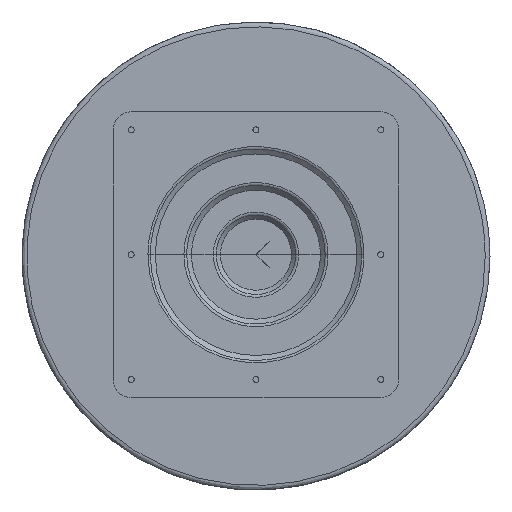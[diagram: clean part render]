
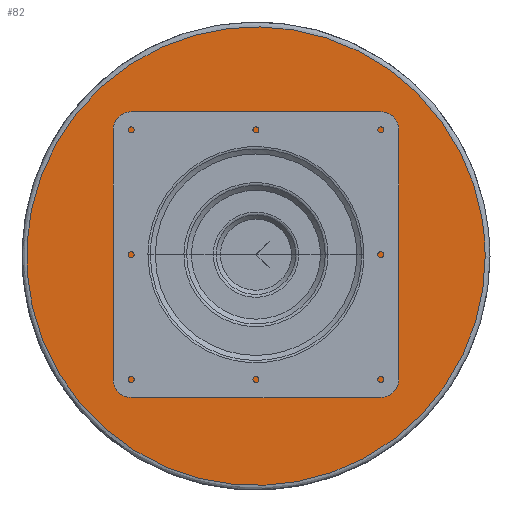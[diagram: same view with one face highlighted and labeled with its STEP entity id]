
A CAD part, top view. The second image highlights one B-rep face of the part: STEP entity #82.
In plain terms, the highlighted planar face has unit normal (0, 0, 1).
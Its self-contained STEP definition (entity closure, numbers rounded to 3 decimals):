
#33=FACE_BOUND('',#307,.T.);
#82=ADVANCED_FACE('',(#185,#33),#1446,.T.);
#185=FACE_OUTER_BOUND('',#306,.T.);
#306=EDGE_LOOP('',(#571));
#307=EDGE_LOOP('',(#572));
#571=ORIENTED_EDGE('',*,*,#937,.F.);
#572=ORIENTED_EDGE('',*,*,#941,.T.);
#937=EDGE_CURVE('',#1359,#1359,#1179,.T.);
#941=EDGE_CURVE('',#1362,#1362,#1183,.T.);
#1179=(
BOUNDED_CURVE()
B_SPLINE_CURVE(2,(#5267,#5268,#5269,#5270,#5271,#5272,#5273,#5274,#5275),
 .UNSPECIFIED.,.T.,.F.)
B_SPLINE_CURVE_WITH_KNOTS((3,2,2,2,3),(0.,300.022,600.043,
900.065,1200.087),.UNSPECIFIED.)
CURVE()
GEOMETRIC_REPRESENTATION_ITEM()
RATIONAL_B_SPLINE_CURVE((1.,0.707,1.,0.707,1.,0.707,
1.,0.707,1.))
REPRESENTATION_ITEM('')
);
#1183=(
BOUNDED_CURVE()
B_SPLINE_CURVE(2,(#5290,#5291,#5292,#5293,#5294,#5295,#5296,#5297,#5298),
 .UNSPECIFIED.,.T.,.F.)
B_SPLINE_CURVE_WITH_KNOTS((3,2,2,2,3),(0.,33.537,67.073,
100.61,134.146),.UNSPECIFIED.)
CURVE()
GEOMETRIC_REPRESENTATION_ITEM()
RATIONAL_B_SPLINE_CURVE((1.,0.707,1.,0.707,1.,0.707,
1.,0.707,1.))
REPRESENTATION_ITEM('')
);
#1359=VERTEX_POINT('',#4587);
#1362=VERTEX_POINT('',#4590);
#1446=PLANE('',#1564);
#1564=AXIS2_PLACEMENT_3D('',#4054,#1576,$);
#1576=DIRECTION('',(0.,0.,1.));
#4054=CARTESIAN_POINT('',(-243.75,243.75,11.));
#4587=CARTESIAN_POINT('',(191.,0.,11.));
#4590=CARTESIAN_POINT('',(21.35,0.,11.));
#5267=CARTESIAN_POINT('',(191.,0.,11.));
#5268=CARTESIAN_POINT('',(191.,-191.,11.));
#5269=CARTESIAN_POINT('',(0.,-191.,11.));
#5270=CARTESIAN_POINT('',(-191.,-191.,11.));
#5271=CARTESIAN_POINT('',(-191.,0.,11.));
#5272=CARTESIAN_POINT('',(-191.,191.,11.));
#5273=CARTESIAN_POINT('',(0.,191.,11.));
#5274=CARTESIAN_POINT('',(191.,191.,11.));
#5275=CARTESIAN_POINT('',(191.,0.,11.));
#5290=CARTESIAN_POINT('',(21.35,0.,11.));
#5291=CARTESIAN_POINT('',(21.35,-21.35,11.));
#5292=CARTESIAN_POINT('',(0.,-21.35,11.));
#5293=CARTESIAN_POINT('',(-21.35,-21.35,11.));
#5294=CARTESIAN_POINT('',(-21.35,0.,11.));
#5295=CARTESIAN_POINT('',(-21.35,21.35,11.));
#5296=CARTESIAN_POINT('',(0.,21.35,11.));
#5297=CARTESIAN_POINT('',(21.35,21.35,11.));
#5298=CARTESIAN_POINT('',(21.35,0.,11.));
